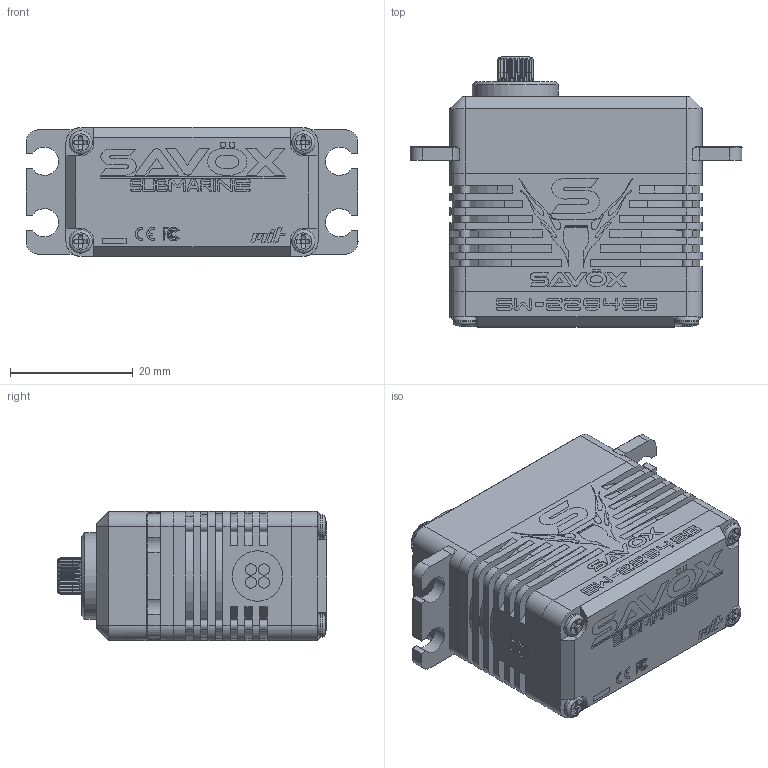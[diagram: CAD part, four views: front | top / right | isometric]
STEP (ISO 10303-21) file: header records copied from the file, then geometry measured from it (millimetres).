
FILE_DESCRIPTION (( 'STEP AP214' ), '1' );
FILE_NAME ('SW-2294SG_3D??+??.STEP', '2025-04-16T10:50:51', ( '' ), ( '' ), 'SwSTEP 2.0', 'SolidWorks 2024', '' );
FILE_SCHEMA (( 'AUTOMOTIVE_DESIGN' ));
Length unit declared in the file: millimetre
Products named in the file (1): SW-2294SG_3D零件+齒輪
Bounding box: 54 x 43.9 x 21 mm (x, y, z)
Volume: 31801.9 mm3; surface area: 8097.4 mm2
Topology: 1 solids, 1 shells, 684 faces, 3456 edges, 2902 vertices
Faces by surface type: plane 365, cylinder 192, cone 90, torus 37
Full cylindrical faces by diameter (mm): 1.7 x24, 1.85 x4, 2.5 x1, 3.8 x4, 6.1 x1, 14 x1
Entity records: 46110 total; most frequent: CARTESIAN_POINT 12078, ORIENTED_EDGE 6794, DIRECTION 4027, EDGE_CURVE 3397, VERTEX_POINT 2892, VECTOR 1565, LINE 1565, B_SPLINE_CURVE_WITH_KNOTS 1278
